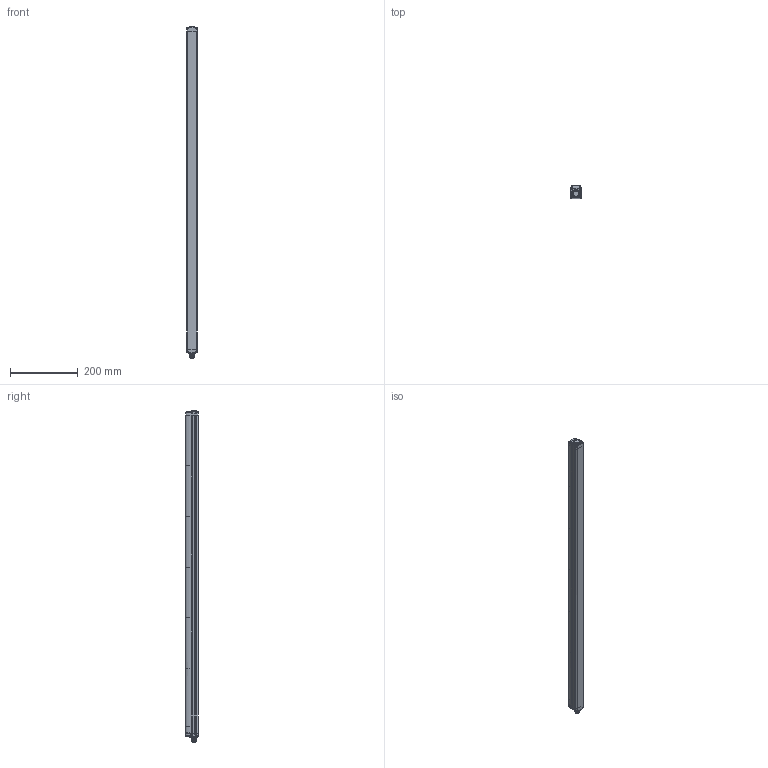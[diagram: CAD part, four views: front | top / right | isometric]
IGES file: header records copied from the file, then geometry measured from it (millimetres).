
Global section: file name: D:\Studi\DSD-0162.igs; preprocessor: I-DEAS 3D IGES Translator 11; date: 20080609.145144; units: millimetre
Bounding box: 32.3 x 36.9 x 983.24 mm (x, y, z)
Volume: 972114.1 mm3; surface area: 230672 mm2
Topology: 12 solids, 12 shells, 1630 faces, 6349 edges, 5190 vertices
Faces by surface type: bspline 1630
